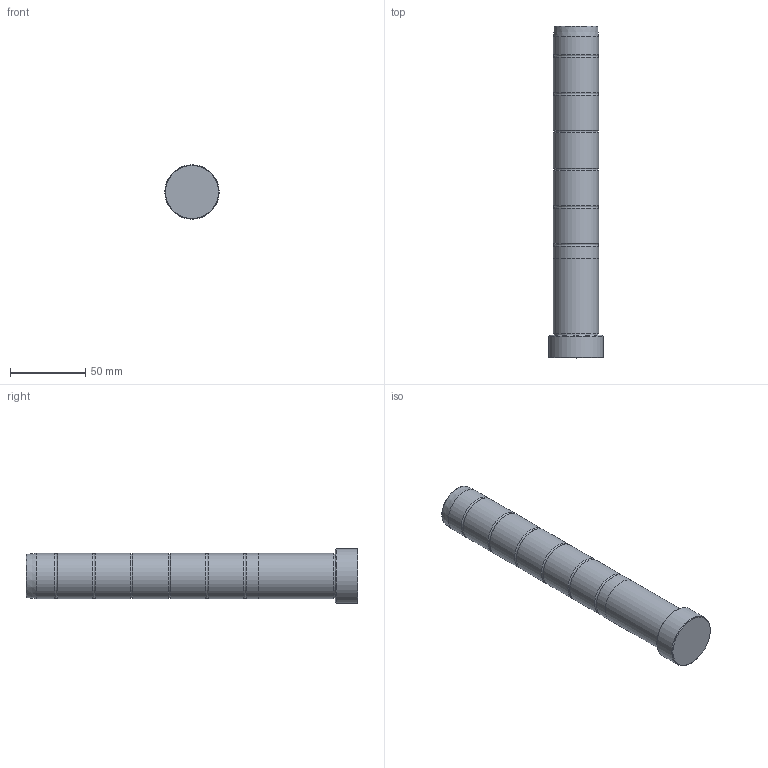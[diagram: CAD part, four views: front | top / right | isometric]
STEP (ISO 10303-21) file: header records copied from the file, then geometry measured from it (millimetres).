
FILE_DESCRIPTION( ( 'STEP AP203' ), '1' );
FILE_NAME( 'D:/Cuma/24 03 2009/D01/D01_30X220.step', '2002-12-31T22:30:36', ( ' ' ), ( ' ' ), 'XStep 1.0', ' ', ' ' );
FILE_SCHEMA( ( 'CONFIG_CONTROL_DESIGN' ) );
Length unit declared in the file: metre
Products named in the file (1): 1
Bounding box: 36 x 220 x 36 mm (x, y, z)
Volume: 159619.5 mm3; surface area: 23126.4 mm2
Topology: 1 solids, 1 shells, 25 faces, 50 edges, 30 vertices
Faces by surface type: cylinder 10, torus 7, plane 5, cone 3
Full cylindrical faces by diameter (mm): 29.5 x1, 30 x7, 30.015 x1, 36 x1
Entity records: 539 total; most frequent: DIRECTION 100, CARTESIAN_POINT 74, AXIS2_PLACEMENT_3D 50, EDGE_LOOP 48, ORIENTED_EDGE 48, FACE_OUTER_BOUND 42, ADVANCED_FACE 25, EDGE_CURVE 24
